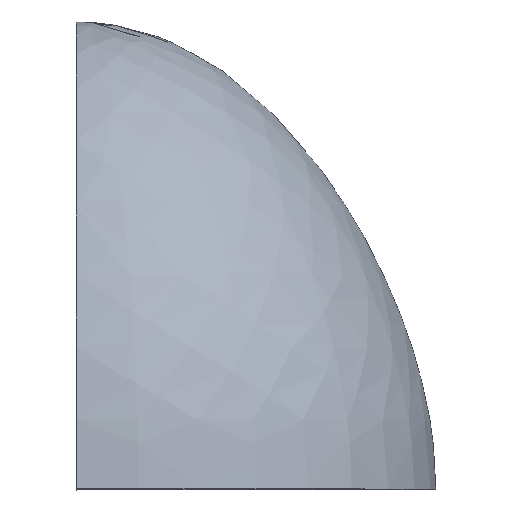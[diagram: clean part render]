
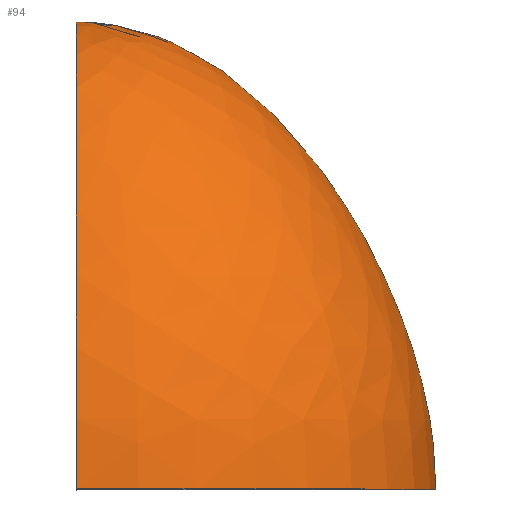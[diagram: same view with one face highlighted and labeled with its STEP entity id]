
A CAD part, top view. The second image highlights one B-rep face of the part: STEP entity #94.
In plain terms, the highlighted face is a revolution surface.
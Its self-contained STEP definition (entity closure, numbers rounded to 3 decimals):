
#52=CARTESIAN_POINT('Control Point',(0.,0.,87.)) ;
#53=CARTESIAN_POINT('Control Point',(0.,28.522,87.)) ;
#54=CARTESIAN_POINT('Control Point',(0.,60.338,75.946)) ;
#55=CARTESIAN_POINT('Control Point',(0.,95.446,53.838)) ;
#56=CARTESIAN_POINT('Control Point',(0.,113.,28.522)) ;
#57=CARTESIAN_POINT('Control Point',(0.,113.,0.)) ;
#58=CARTESIAN_POINT('Axis1P Location',(0.,0.,0.)) ;
#63=CARTESIAN_POINT('Control Point',(0.,0.,-87.)) ;
#64=CARTESIAN_POINT('Control Point',(0.,28.522,-87.)) ;
#65=CARTESIAN_POINT('Control Point',(0.,60.338,-75.946)) ;
#66=CARTESIAN_POINT('Control Point',(0.,95.446,-53.838)) ;
#67=CARTESIAN_POINT('Control Point',(0.,113.,-28.522)) ;
#68=CARTESIAN_POINT('Control Point',(0.,113.,0.)) ;
#69=CARTESIAN_POINT('Vertex',(0.,0.,-87.)) ;
#71=CARTESIAN_POINT('Vertex',(0.,113.,0.)) ;
#75=CARTESIAN_POINT('Control Point',(0.,0.,87.)) ;
#76=CARTESIAN_POINT('Control Point',(0.,28.522,87.)) ;
#77=CARTESIAN_POINT('Control Point',(0.,60.338,75.946)) ;
#78=CARTESIAN_POINT('Control Point',(0.,95.446,53.838)) ;
#79=CARTESIAN_POINT('Control Point',(0.,113.,28.522)) ;
#80=CARTESIAN_POINT('Control Point',(0.,113.,0.)) ;
#81=CARTESIAN_POINT('Vertex',(0.,0.,87.)) ;
#84=CARTESIAN_POINT('Axis2P3D Location',(0.,0.,0.)) ;
#59=DIRECTION('Axis1P Direction',(0.,1.,0.)) ;
#85=DIRECTION('Axis2P3D Direction',(0.,1.,0.)) ;
#86=AXIS2_PLACEMENT_3D('Circle Axis2P3D',#84,#85,$) ;
#90=ORIENTED_EDGE('',*,*,#73,.T.) ;
#91=ORIENTED_EDGE('',*,*,#83,.F.) ;
#92=ORIENTED_EDGE('',*,*,#88,.T.) ;
#94=ADVANCED_FACE('PartBody',(#93),#61,.T.) ;
#60=AXIS1_PLACEMENT('Revolution Surface Axis1P',#58,#59) ;
#51=B_SPLINE_CURVE_WITH_KNOTS('',5,(#52,#53,#54,#55,#56,#57),.UNSPECIFIED.,.F.,.U.,(6,6),(0.,142.611),.UNSPECIFIED.) ;
#62=B_SPLINE_CURVE_WITH_KNOTS('',5,(#63,#64,#65,#66,#67,#68),.UNSPECIFIED.,.F.,.U.,(6,6),(0.,142.611),.UNSPECIFIED.) ;
#74=B_SPLINE_CURVE_WITH_KNOTS('',5,(#75,#76,#77,#78,#79,#80),.UNSPECIFIED.,.F.,.U.,(6,6),(0.,142.611),.UNSPECIFIED.) ;
#87=CIRCLE('generated circle',#86,87.) ;
#73=EDGE_CURVE('',#70,#72,#62,.T.) ;
#83=EDGE_CURVE('',#82,#72,#74,.T.) ;
#88=EDGE_CURVE('',#82,#70,#87,.T.) ;
#89=EDGE_LOOP('',(#90,#91,#92)) ;
#93=FACE_OUTER_BOUND('',#89,.T.) ;
#61=SURFACE_OF_REVOLUTION('Surface of Revolution',#51,#60) ;
#70=VERTEX_POINT('',#69) ;
#72=VERTEX_POINT('',#71) ;
#82=VERTEX_POINT('',#81) ;
